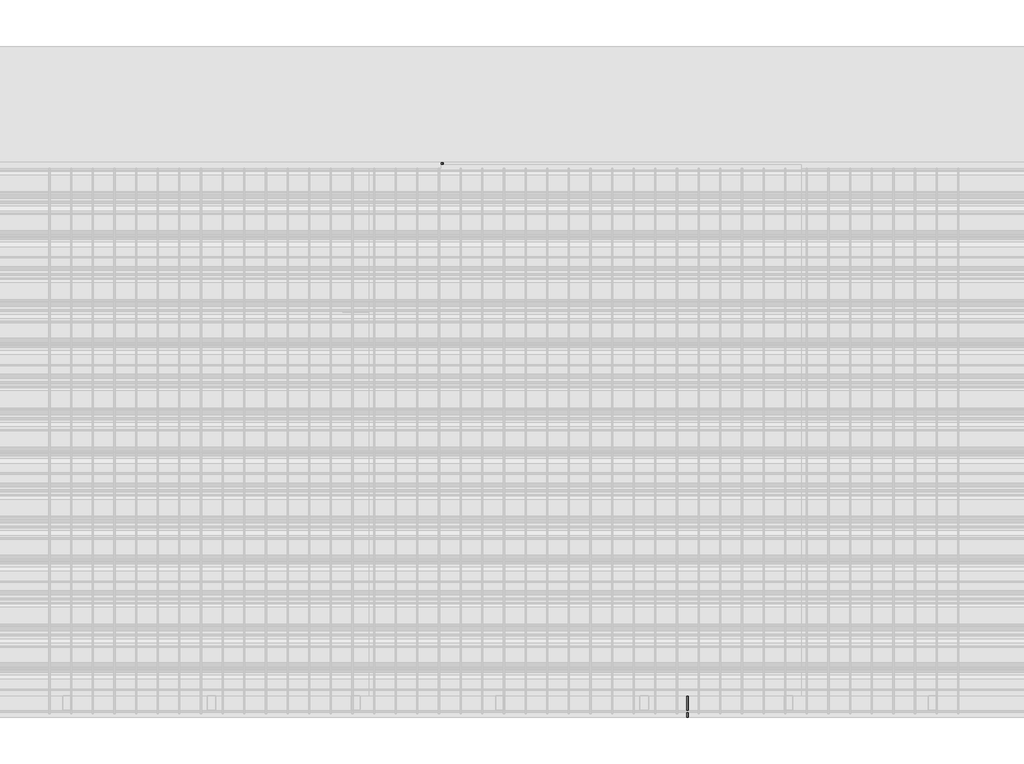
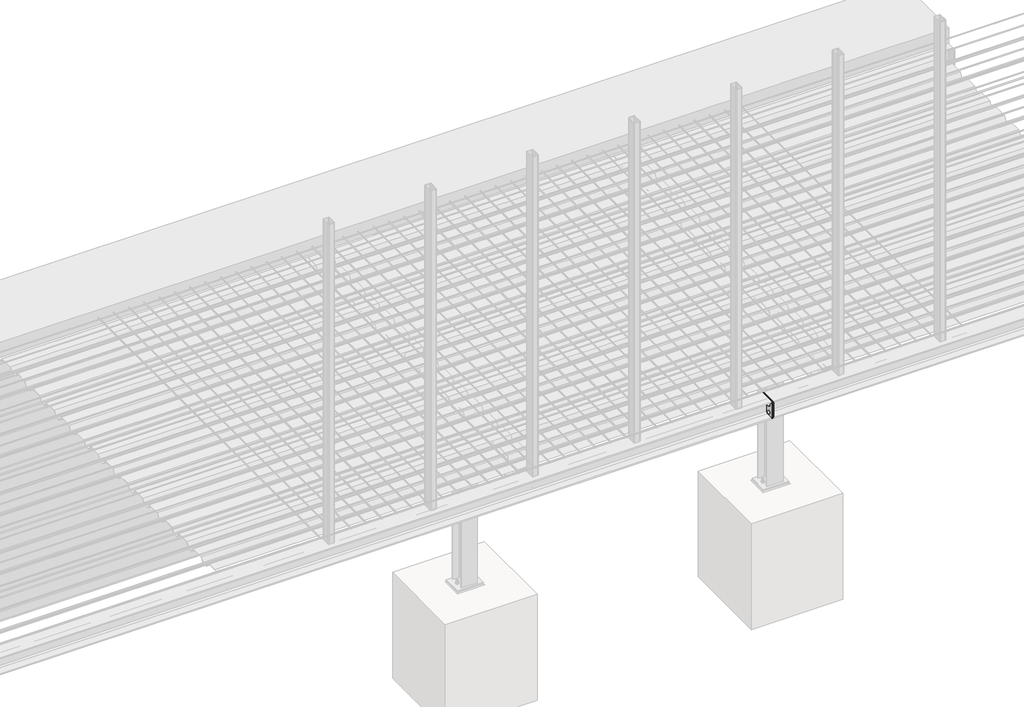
# One storey, part 11 of 36: 11 proxies.
"""IFC4 building model written with IfcOpenShell, lengths in millimetres."""

from ifc_helpers import new_model, si_unit, point, frame, frame_2d, origin, place, context, project, spatial, polyline, circle_curve, trimmed, segment, composite_curve, outline, extrude, element, save

model = new_model("IFC4")

# Units and contexts
model_context = context("Model", 3, world=origin())
ifc_project = project(units=[si_unit("LENGTHUNIT", "METRE", prefix="MILLI")], contexts=[model_context])

# Site, building, storey
site = spatial("IfcSite", under=ifc_project)
building = spatial("IfcBuilding", under=site)
storey = spatial("IfcBuildingStorey", under=building, Name="Základy", Elevation=-1200.0)

# Proxies
placement = place(None, origin())
element("IfcBuildingElementProxy", 1, Name="PLECH", ObjectType="PLECH", at=placement, inside=storey, context=model_context, shape_type="SweptSolid", body=[
    extrude(outline(polyline([(5960.0, 3775.0), (6140.0, 3775.0), (6140.0, 3767.0), (5960.0, 3767.0), (5960.0, 3775.0)])), frame((0.0, 0.0, -316.0), z_axis=(0.0, 0.0, 1.0), x_axis=(1.0, 0.0, 0.0)), (0.0, 0.0, 1.0), 132.0),
])
element("IfcBuildingElementProxy", 2, Name="PLECH", ObjectType="PLECH", at=placement, inside=storey, context=model_context, shape_type="SweptSolid", body=[
    extrude(outline(composite_curve([segment(polyline([(3785.0, -170.5), (3834.5, -170.5)]), True, "CONTINUOUS"), segment(trimmed(circle_curve(frame_2d((3854.5, -170.5)), 20.0), [point((3834.5, -170.5))], [point((3854.5, -190.5))], True, "CARTESIAN"), True, "CONTINUOUS"), segment(polyline([(3854.5, -190.5), (3854.5, -309.5)]), True, "CONTINUOUS"), segment(trimmed(circle_curve(frame_2d((3854.5, -329.5)), 20.0), [point((3854.5, -309.5))], [point((3834.5, -329.5))], True, "CARTESIAN"), True, "CONTINUOUS"), segment(polyline([(3834.5, -329.5), (3785.0, -329.5), (3785.0, -170.5)]), True, "CONTINUOUS")], self_intersect=False)), frame((6046.0, 0.0, 0.0), z_axis=(1.0, 0.0, 0.0), x_axis=(0.0, 1.0, 0.0)), (0.0, 0.0, 1.0), 8.0),
])
element("IfcBuildingElementProxy", 3, Name="PLECH", ObjectType="PLECH", at=placement, inside=storey, context=model_context, shape_type="SweptSolid", body=[
    extrude(outline(polyline([(5960.0, 3785.0), (6140.0, 3785.0), (6140.0, 3775.0), (5960.0, 3775.0), (5960.0, 3785.0)])), frame((0.0, 0.0, -332.0), z_axis=(0.0, 0.0, 1.0), x_axis=(1.0, 0.0, 0.0)), (0.0, 0.0, 1.0), 164.0),
])
element("IfcBuildingElementProxy", 4, Name="PLECH", ObjectType="PLECH", at=placement, inside=storey, context=model_context, shape_type="SweptSolid", body=[
    extrude(outline(polyline([(6650.0, 3855.0), (6650.0, 3785.0), (6640.0, 3785.0), (6640.0, 3855.0), (6650.0, 3855.0)])), frame((0.0, 0.0, -329.5), z_axis=(0.0, 0.0, 1.0), x_axis=(1.0, 0.0, 0.0)), (0.0, 0.0, 1.0), 159.0),
])
element("IfcBuildingElementProxy", 5, Name="PLECH", ObjectType="PLECH", at=placement, inside=storey, context=model_context, shape_type="SweptSolid", body=[
    extrude(outline(polyline([(8350.0, 190.0), (8350.0, 10.0), (8340.0, 10.0), (8340.0, 190.0), (8350.0, 190.0)])), frame((0.0, 0.0, -332.0), z_axis=(0.0, 0.0, 1.0), x_axis=(1.0, 0.0, 0.0)), (0.0, 0.0, 1.0), 164.0),
])
element("IfcBuildingElementProxy", 6, Name="PLECH", ObjectType="PLECH", at=placement, inside=storey, context=model_context, shape_type="SweptSolid", body=[
    extrude(outline(polyline([(6660.0, 3855.0), (6660.0, 3785.0), (6650.0, 3785.0), (6650.0, 3855.0), (6660.0, 3855.0)])), frame((0.0, 0.0, -329.5), z_axis=(0.0, 0.0, 1.0), x_axis=(1.0, 0.0, 0.0)), (0.0, 0.0, 1.0), 159.0),
])
element("IfcBuildingElementProxy", 7, Name="PLECH", ObjectType="PLECH", at=placement, inside=storey, context=model_context, shape_type="SweptSolid", body=[
    extrude(outline(polyline([(8360.0, 190.0), (8360.0, 10.0), (8350.0, 10.0), (8350.0, 190.0), (8360.0, 190.0)])), frame((0.0, 0.0, -332.0), z_axis=(0.0, 0.0, 1.0), x_axis=(1.0, 0.0, 0.0)), (0.0, 0.0, 1.0), 164.0),
])
element("IfcBuildingElementProxy", 8, Name="Bolt assembly", ObjectType="Bolt assembly", at=placement, inside=storey, context=model_context, shape_type="SweptSolid", body=[
    extrude(outline(composite_curve([segment(trimmed(circle_curve(frame_2d((6000.0, 1220.0)), 6.5), [point((6006.5, 1220.0))], [point((5993.5, 1220.0))], False, "CARTESIAN"), True, "CONTINUOUS"), segment(trimmed(circle_curve(frame_2d((6000.0, 1220.0)), 6.5), [point((5993.5, 1220.0))], [point((6006.5, 1220.0))], False, "CARTESIAN"), True, "CONTINUOUS")], self_intersect=False)), frame((0.0, 0.0, -350.0), z_axis=(0.0, 0.0, 1.0), x_axis=(1.0, 0.0, 0.0)), (0.0, 0.0, 1.0), 10.1),
    extrude(outline(polyline([(6010.3923048, 1220.0), (6005.1961524, 1211.0), (5994.8038476, 1211.0), (5989.6076952, 1220.0), (5994.8038476, 1229.0), (6005.1961524, 1229.0), (6010.3923048, 1220.0)])), frame((0.0, 0.0, -323.5), z_axis=(0.0, 0.0, 1.0), x_axis=(1.0, 0.0, 0.0)), (0.0, 0.0, 1.0), 7.5),
    extrude(outline(composite_curve([segment(trimmed(circle_curve(frame_2d((6000.0, 1220.0)), 6.0), [point((6006.0, 1220.0))], [point((5994.0, 1220.0))], False, "CARTESIAN"), True, "CONTINUOUS"), segment(trimmed(circle_curve(frame_2d((6000.0, 1220.0)), 6.0), [point((5994.0, 1220.0))], [point((6006.0, 1220.0))], False, "CARTESIAN"), True, "CONTINUOUS")], self_intersect=False)), frame((0.0, 0.0, -368.5), z_axis=(0.0, 0.0, 1.0), x_axis=(1.0, 0.0, 0.0)), (0.0, 0.0, 1.0), 45.0),
    extrude(outline(composite_curve([segment(trimmed(circle_curve(frame_2d((6000.0, 1220.0)), 12.0), [point((6012.0, 1220.0))], [point((5988.0, 1220.0))], False, "CARTESIAN"), True, "CONTINUOUS"), segment(trimmed(circle_curve(frame_2d((6000.0, 1220.0)), 12.0), [point((5988.0, 1220.0))], [point((6012.0, 1220.0))], False, "CARTESIAN"), True, "CONTINUOUS")], self_intersect=False)), frame((0.0, 0.0, -326.0), z_axis=(0.0, 0.0, 1.0), x_axis=(1.0, 0.0, 0.0)), (0.0, 0.0, 1.0), 2.5),
    extrude(outline(composite_curve([segment(trimmed(circle_curve(frame_2d((6000.0, 1220.0)), 12.0), [point((6012.0, 1220.0))], [point((5988.0, 1220.0))], False, "CARTESIAN"), True, "CONTINUOUS"), segment(trimmed(circle_curve(frame_2d((6000.0, 1220.0)), 12.0), [point((5988.0, 1220.0))], [point((6012.0, 1220.0))], False, "CARTESIAN"), True, "CONTINUOUS")], self_intersect=False)), frame((0.0, 0.0, -352.5), z_axis=(0.0, 0.0, 1.0), x_axis=(1.0, 0.0, 0.0)), (0.0, 0.0, 1.0), 2.5),
    extrude(outline(polyline([(6010.9696551, 1220.0), (6005.4848276, 1210.5), (5994.5151724, 1210.5), (5989.0303449, 1220.0), (5994.5151724, 1229.5), (6005.4848276, 1229.5), (6010.9696551, 1220.0)])), frame((0.0, 0.0, -362.5), z_axis=(0.0, 0.0, 1.0), x_axis=(1.0, 0.0, 0.0)), (0.0, 0.0, 1.0), 10.0),
    extrude(outline(composite_curve([segment(trimmed(circle_curve(frame_2d((6000.0, 1220.0)), 6.5), [point((6006.5, 1220.0))], [point((5993.5, 1220.0))], False, "CARTESIAN"), True, "CONTINUOUS"), segment(trimmed(circle_curve(frame_2d((6000.0, 1220.0)), 6.5), [point((5993.5, 1220.0))], [point((6006.5, 1220.0))], False, "CARTESIAN"), True, "CONTINUOUS")], self_intersect=False)), frame((0.0, 0.0, -340.1), z_axis=(0.0, 0.0, 1.0), x_axis=(1.0, 0.0, 0.0)), (0.0, 0.0, 1.0), 14.0),
    extrude(outline(composite_curve([segment(trimmed(circle_curve(frame_2d((6100.0, 1220.0)), 6.5), [point((6106.5, 1220.0))], [point((6093.5, 1220.0))], False, "CARTESIAN"), True, "CONTINUOUS"), segment(trimmed(circle_curve(frame_2d((6100.0, 1220.0)), 6.5), [point((6093.5, 1220.0))], [point((6106.5, 1220.0))], False, "CARTESIAN"), True, "CONTINUOUS")], self_intersect=False)), frame((0.0, 0.0, -350.0), z_axis=(0.0, 0.0, 1.0), x_axis=(1.0, 0.0, 0.0)), (0.0, 0.0, 1.0), 10.1),
    extrude(outline(polyline([(6110.3923048, 1220.0), (6105.1961524, 1211.0), (6094.8038476, 1211.0), (6089.6076952, 1220.0), (6094.8038476, 1229.0), (6105.1961524, 1229.0), (6110.3923048, 1220.0)])), frame((0.0, 0.0, -323.5), z_axis=(0.0, 0.0, 1.0), x_axis=(1.0, 0.0, 0.0)), (0.0, 0.0, 1.0), 7.5),
    extrude(outline(composite_curve([segment(trimmed(circle_curve(frame_2d((6100.0, 1220.0)), 6.0), [point((6106.0, 1220.0))], [point((6094.0, 1220.0))], False, "CARTESIAN"), True, "CONTINUOUS"), segment(trimmed(circle_curve(frame_2d((6100.0, 1220.0)), 6.0), [point((6094.0, 1220.0))], [point((6106.0, 1220.0))], False, "CARTESIAN"), True, "CONTINUOUS")], self_intersect=False)), frame((0.0, 0.0, -368.5), z_axis=(0.0, 0.0, 1.0), x_axis=(1.0, 0.0, 0.0)), (0.0, 0.0, 1.0), 45.0),
    extrude(outline(composite_curve([segment(trimmed(circle_curve(frame_2d((6100.0, 1220.0)), 12.0), [point((6112.0, 1220.0))], [point((6088.0, 1220.0))], False, "CARTESIAN"), True, "CONTINUOUS"), segment(trimmed(circle_curve(frame_2d((6100.0, 1220.0)), 12.0), [point((6088.0, 1220.0))], [point((6112.0, 1220.0))], False, "CARTESIAN"), True, "CONTINUOUS")], self_intersect=False)), frame((0.0, 0.0, -326.0), z_axis=(0.0, 0.0, 1.0), x_axis=(1.0, 0.0, 0.0)), (0.0, 0.0, 1.0), 2.5),
    extrude(outline(composite_curve([segment(trimmed(circle_curve(frame_2d((6100.0, 1220.0)), 12.0), [point((6112.0, 1220.0))], [point((6088.0, 1220.0))], False, "CARTESIAN"), True, "CONTINUOUS"), segment(trimmed(circle_curve(frame_2d((6100.0, 1220.0)), 12.0), [point((6088.0, 1220.0))], [point((6112.0, 1220.0))], False, "CARTESIAN"), True, "CONTINUOUS")], self_intersect=False)), frame((0.0, 0.0, -352.5), z_axis=(0.0, 0.0, 1.0), x_axis=(1.0, 0.0, 0.0)), (0.0, 0.0, 1.0), 2.5),
    extrude(outline(polyline([(6110.9696551, 1220.0), (6105.4848276, 1210.5), (6094.5151724, 1210.5), (6089.0303449, 1220.0), (6094.5151724, 1229.5), (6105.4848276, 1229.5), (6110.9696551, 1220.0)])), frame((0.0, 0.0, -362.5), z_axis=(0.0, 0.0, 1.0), x_axis=(1.0, 0.0, 0.0)), (0.0, 0.0, 1.0), 10.0),
    extrude(outline(composite_curve([segment(trimmed(circle_curve(frame_2d((6100.0, 1220.0)), 6.5), [point((6106.5, 1220.0))], [point((6093.5, 1220.0))], False, "CARTESIAN"), True, "CONTINUOUS"), segment(trimmed(circle_curve(frame_2d((6100.0, 1220.0)), 6.5), [point((6093.5, 1220.0))], [point((6106.5, 1220.0))], False, "CARTESIAN"), True, "CONTINUOUS")], self_intersect=False)), frame((0.0, 0.0, -340.1), z_axis=(0.0, 0.0, 1.0), x_axis=(1.0, 0.0, 0.0)), (0.0, 0.0, 1.0), 14.0),
    extrude(outline(composite_curve([segment(trimmed(circle_curve(frame_2d((6000.0, 1300.0)), 6.5), [point((6006.5, 1300.0))], [point((5993.5, 1300.0))], False, "CARTESIAN"), True, "CONTINUOUS"), segment(trimmed(circle_curve(frame_2d((6000.0, 1300.0)), 6.5), [point((5993.5, 1300.0))], [point((6006.5, 1300.0))], False, "CARTESIAN"), True, "CONTINUOUS")], self_intersect=False)), frame((0.0, 0.0, -350.0), z_axis=(0.0, 0.0, 1.0), x_axis=(1.0, 0.0, 0.0)), (0.0, 0.0, 1.0), 10.1),
    extrude(outline(polyline([(6010.3923048, 1300.0), (6005.1961524, 1291.0), (5994.8038476, 1291.0), (5989.6076952, 1300.0), (5994.8038476, 1309.0), (6005.1961524, 1309.0), (6010.3923048, 1300.0)])), frame((0.0, 0.0, -323.5), z_axis=(0.0, 0.0, 1.0), x_axis=(1.0, 0.0, 0.0)), (0.0, 0.0, 1.0), 7.5),
    extrude(outline(composite_curve([segment(trimmed(circle_curve(frame_2d((6000.0, 1300.0)), 6.0), [point((6006.0, 1300.0))], [point((5994.0, 1300.0))], False, "CARTESIAN"), True, "CONTINUOUS"), segment(trimmed(circle_curve(frame_2d((6000.0, 1300.0)), 6.0), [point((5994.0, 1300.0))], [point((6006.0, 1300.0))], False, "CARTESIAN"), True, "CONTINUOUS")], self_intersect=False)), frame((0.0, 0.0, -368.5), z_axis=(0.0, 0.0, 1.0), x_axis=(1.0, 0.0, 0.0)), (0.0, 0.0, 1.0), 45.0),
    extrude(outline(composite_curve([segment(trimmed(circle_curve(frame_2d((6000.0, 1300.0)), 12.0), [point((6012.0, 1300.0))], [point((5988.0, 1300.0))], False, "CARTESIAN"), True, "CONTINUOUS"), segment(trimmed(circle_curve(frame_2d((6000.0, 1300.0)), 12.0), [point((5988.0, 1300.0))], [point((6012.0, 1300.0))], False, "CARTESIAN"), True, "CONTINUOUS")], self_intersect=False)), frame((0.0, 0.0, -326.0), z_axis=(0.0, 0.0, 1.0), x_axis=(1.0, 0.0, 0.0)), (0.0, 0.0, 1.0), 2.5),
    extrude(outline(composite_curve([segment(trimmed(circle_curve(frame_2d((6000.0, 1300.0)), 12.0), [point((6012.0, 1300.0))], [point((5988.0, 1300.0))], False, "CARTESIAN"), True, "CONTINUOUS"), segment(trimmed(circle_curve(frame_2d((6000.0, 1300.0)), 12.0), [point((5988.0, 1300.0))], [point((6012.0, 1300.0))], False, "CARTESIAN"), True, "CONTINUOUS")], self_intersect=False)), frame((0.0, 0.0, -352.5), z_axis=(0.0, 0.0, 1.0), x_axis=(1.0, 0.0, 0.0)), (0.0, 0.0, 1.0), 2.5),
    extrude(outline(polyline([(6010.9696551, 1300.0), (6005.4848276, 1290.5), (5994.5151724, 1290.5), (5989.0303449, 1300.0), (5994.5151724, 1309.5), (6005.4848276, 1309.5), (6010.9696551, 1300.0)])), frame((0.0, 0.0, -362.5), z_axis=(0.0, 0.0, 1.0), x_axis=(1.0, 0.0, 0.0)), (0.0, 0.0, 1.0), 10.0),
    extrude(outline(composite_curve([segment(trimmed(circle_curve(frame_2d((6000.0, 1300.0)), 6.5), [point((6006.5, 1300.0))], [point((5993.5, 1300.0))], False, "CARTESIAN"), True, "CONTINUOUS"), segment(trimmed(circle_curve(frame_2d((6000.0, 1300.0)), 6.5), [point((5993.5, 1300.0))], [point((6006.5, 1300.0))], False, "CARTESIAN"), True, "CONTINUOUS")], self_intersect=False)), frame((0.0, 0.0, -340.1), z_axis=(0.0, 0.0, 1.0), x_axis=(1.0, 0.0, 0.0)), (0.0, 0.0, 1.0), 14.0),
    extrude(outline(composite_curve([segment(trimmed(circle_curve(frame_2d((6100.0, 1300.0)), 6.5), [point((6106.5, 1300.0))], [point((6093.5, 1300.0))], False, "CARTESIAN"), True, "CONTINUOUS"), segment(trimmed(circle_curve(frame_2d((6100.0, 1300.0)), 6.5), [point((6093.5, 1300.0))], [point((6106.5, 1300.0))], False, "CARTESIAN"), True, "CONTINUOUS")], self_intersect=False)), frame((0.0, 0.0, -350.0), z_axis=(0.0, 0.0, 1.0), x_axis=(1.0, 0.0, 0.0)), (0.0, 0.0, 1.0), 10.1),
    extrude(outline(polyline([(6110.3923048, 1300.0), (6105.1961524, 1291.0), (6094.8038476, 1291.0), (6089.6076952, 1300.0), (6094.8038476, 1309.0), (6105.1961524, 1309.0), (6110.3923048, 1300.0)])), frame((0.0, 0.0, -323.5), z_axis=(0.0, 0.0, 1.0), x_axis=(1.0, 0.0, 0.0)), (0.0, 0.0, 1.0), 7.5),
    extrude(outline(composite_curve([segment(trimmed(circle_curve(frame_2d((6100.0, 1300.0)), 6.0), [point((6106.0, 1300.0))], [point((6094.0, 1300.0))], False, "CARTESIAN"), True, "CONTINUOUS"), segment(trimmed(circle_curve(frame_2d((6100.0, 1300.0)), 6.0), [point((6094.0, 1300.0))], [point((6106.0, 1300.0))], False, "CARTESIAN"), True, "CONTINUOUS")], self_intersect=False)), frame((0.0, 0.0, -368.5), z_axis=(0.0, 0.0, 1.0), x_axis=(1.0, 0.0, 0.0)), (0.0, 0.0, 1.0), 45.0),
    extrude(outline(composite_curve([segment(trimmed(circle_curve(frame_2d((6100.0, 1300.0)), 12.0), [point((6112.0, 1300.0))], [point((6088.0, 1300.0))], False, "CARTESIAN"), True, "CONTINUOUS"), segment(trimmed(circle_curve(frame_2d((6100.0, 1300.0)), 12.0), [point((6088.0, 1300.0))], [point((6112.0, 1300.0))], False, "CARTESIAN"), True, "CONTINUOUS")], self_intersect=False)), frame((0.0, 0.0, -326.0), z_axis=(0.0, 0.0, 1.0), x_axis=(1.0, 0.0, 0.0)), (0.0, 0.0, 1.0), 2.5),
    extrude(outline(composite_curve([segment(trimmed(circle_curve(frame_2d((6100.0, 1300.0)), 12.0), [point((6112.0, 1300.0))], [point((6088.0, 1300.0))], False, "CARTESIAN"), True, "CONTINUOUS"), segment(trimmed(circle_curve(frame_2d((6100.0, 1300.0)), 12.0), [point((6088.0, 1300.0))], [point((6112.0, 1300.0))], False, "CARTESIAN"), True, "CONTINUOUS")], self_intersect=False)), frame((0.0, 0.0, -352.5), z_axis=(0.0, 0.0, 1.0), x_axis=(1.0, 0.0, 0.0)), (0.0, 0.0, 1.0), 2.5),
    extrude(outline(polyline([(6110.9696551, 1300.0), (6105.4848276, 1290.5), (6094.5151724, 1290.5), (6089.0303449, 1300.0), (6094.5151724, 1309.5), (6105.4848276, 1309.5), (6110.9696551, 1300.0)])), frame((0.0, 0.0, -362.5), z_axis=(0.0, 0.0, 1.0), x_axis=(1.0, 0.0, 0.0)), (0.0, 0.0, 1.0), 10.0),
    extrude(outline(composite_curve([segment(trimmed(circle_curve(frame_2d((6100.0, 1300.0)), 6.5), [point((6106.5, 1300.0))], [point((6093.5, 1300.0))], False, "CARTESIAN"), True, "CONTINUOUS"), segment(trimmed(circle_curve(frame_2d((6100.0, 1300.0)), 6.5), [point((6093.5, 1300.0))], [point((6106.5, 1300.0))], False, "CARTESIAN"), True, "CONTINUOUS")], self_intersect=False)), frame((0.0, 0.0, -340.1), z_axis=(0.0, 0.0, 1.0), x_axis=(1.0, 0.0, 0.0)), (0.0, 0.0, 1.0), 14.0),
])
element("IfcBuildingElementProxy", 9, Name="Bolt assembly", ObjectType="Bolt assembly", at=placement, inside=storey, context=model_context, shape_type="SweptSolid", body=[
    extrude(outline(composite_curve([segment(trimmed(circle_curve(frame_2d((-220.0, 6005.0)), 9.0), [point((-220.0, 6014.0))], [point((-220.0, 5996.0))], False, "CARTESIAN"), True, "CONTINUOUS"), segment(trimmed(circle_curve(frame_2d((-220.0, 6005.0)), 9.0), [point((-220.0, 5996.0))], [point((-220.0, 6014.0))], False, "CARTESIAN"), True, "CONTINUOUS")], self_intersect=False)), frame((0.0, 3774.9, 0.0), z_axis=(0.0, 1.0, 0.0), x_axis=(0.0, 0.0, 1.0)), (0.0, 0.0, 1.0), 10.0),
    extrude(outline(polyline([(-220.0, 6018.8564065), (-208.0, 6011.9282032), (-208.0, 5998.0717968), (-220.0, 5991.1435935), (-232.0, 5998.0717968), (-232.0, 6011.9282032), (-220.0, 6018.8564065)])), frame((0.0, 3788.0, 0.0), z_axis=(0.0, 1.0, 0.0), x_axis=(0.0, 0.0, 1.0)), (0.0, 0.0, 1.0), 10.0),
    extrude(outline(composite_curve([segment(trimmed(circle_curve(frame_2d((-220.0, 6005.0)), 8.0), [point((-220.0, 6013.0))], [point((-220.0, 5997.0))], False, "CARTESIAN"), True, "CONTINUOUS"), segment(trimmed(circle_curve(frame_2d((-220.0, 6005.0)), 8.0), [point((-220.0, 5997.0))], [point((-220.0, 6013.0))], False, "CARTESIAN"), True, "CONTINUOUS")], self_intersect=False)), frame((0.0, 3738.0, 0.0), z_axis=(0.0, 1.0, 0.0), x_axis=(0.0, 0.0, 1.0)), (0.0, 0.0, 1.0), 50.0),
    extrude(outline(composite_curve([segment(trimmed(circle_curve(frame_2d((-220.0, 6005.0)), 15.0), [point((-220.0, 6020.0))], [point((-220.0, 5990.0))], False, "CARTESIAN"), True, "CONTINUOUS"), segment(trimmed(circle_curve(frame_2d((-220.0, 6005.0)), 15.0), [point((-220.0, 5990.0))], [point((-220.0, 6020.0))], False, "CARTESIAN"), True, "CONTINUOUS")], self_intersect=False)), frame((0.0, 3785.0, 0.0), z_axis=(0.0, 1.0, 0.0), x_axis=(0.0, 0.0, 1.0)), (0.0, 0.0, 1.0), 3.0),
    extrude(outline(composite_curve([segment(trimmed(circle_curve(frame_2d((-220.0, 6005.0)), 15.0), [point((-220.0, 6020.0))], [point((-220.0, 5990.0))], False, "CARTESIAN"), True, "CONTINUOUS"), segment(trimmed(circle_curve(frame_2d((-220.0, 6005.0)), 15.0), [point((-220.0, 5990.0))], [point((-220.0, 6020.0))], False, "CARTESIAN"), True, "CONTINUOUS")], self_intersect=False)), frame((0.0, 3764.0, 0.0), z_axis=(0.0, 1.0, 0.0), x_axis=(0.0, 0.0, 1.0)), (0.0, 0.0, 1.0), 3.0),
    extrude(outline(polyline([(-220.0, 6020.4441197), (-206.625, 6012.7220599), (-206.625, 5997.2779401), (-220.0, 5989.5558803), (-233.375, 5997.2779401), (-233.375, 6012.7220599), (-220.0, 6020.4441197)])), frame((0.0, 3751.0, 0.0), z_axis=(0.0, 1.0, 0.0), x_axis=(0.0, 0.0, 1.0)), (0.0, 0.0, 1.0), 13.0),
    extrude(outline(composite_curve([segment(trimmed(circle_curve(frame_2d((-220.0, 6005.0)), 9.0), [point((-220.0, 6014.0))], [point((-220.0, 5996.0))], False, "CARTESIAN"), True, "CONTINUOUS"), segment(trimmed(circle_curve(frame_2d((-220.0, 6005.0)), 9.0), [point((-220.0, 5996.0))], [point((-220.0, 6014.0))], False, "CARTESIAN"), True, "CONTINUOUS")], self_intersect=False)), frame((0.0, 3767.0, 0.0), z_axis=(0.0, 1.0, 0.0), x_axis=(0.0, 0.0, 1.0)), (0.0, 0.0, 1.0), 8.1),
    extrude(outline(composite_curve([segment(trimmed(circle_curve(frame_2d((-220.0, 6095.0)), 9.0), [point((-220.0, 6104.0))], [point((-220.0, 6086.0))], False, "CARTESIAN"), True, "CONTINUOUS"), segment(trimmed(circle_curve(frame_2d((-220.0, 6095.0)), 9.0), [point((-220.0, 6086.0))], [point((-220.0, 6104.0))], False, "CARTESIAN"), True, "CONTINUOUS")], self_intersect=False)), frame((0.0, 3774.9, 0.0), z_axis=(0.0, 1.0, 0.0), x_axis=(0.0, 0.0, 1.0)), (0.0, 0.0, 1.0), 10.0),
    extrude(outline(polyline([(-220.0, 6108.8564065), (-208.0, 6101.9282032), (-208.0, 6088.0717968), (-220.0, 6081.1435935), (-232.0, 6088.0717968), (-232.0, 6101.9282032), (-220.0, 6108.8564065)])), frame((0.0, 3788.0, 0.0), z_axis=(0.0, 1.0, 0.0), x_axis=(0.0, 0.0, 1.0)), (0.0, 0.0, 1.0), 10.0),
    extrude(outline(composite_curve([segment(trimmed(circle_curve(frame_2d((-220.0, 6095.0)), 8.0), [point((-220.0, 6103.0))], [point((-220.0, 6087.0))], False, "CARTESIAN"), True, "CONTINUOUS"), segment(trimmed(circle_curve(frame_2d((-220.0, 6095.0)), 8.0), [point((-220.0, 6087.0))], [point((-220.0, 6103.0))], False, "CARTESIAN"), True, "CONTINUOUS")], self_intersect=False)), frame((0.0, 3738.0, 0.0), z_axis=(0.0, 1.0, 0.0), x_axis=(0.0, 0.0, 1.0)), (0.0, 0.0, 1.0), 50.0),
    extrude(outline(composite_curve([segment(trimmed(circle_curve(frame_2d((-220.0, 6095.0)), 15.0), [point((-220.0, 6110.0))], [point((-220.0, 6080.0))], False, "CARTESIAN"), True, "CONTINUOUS"), segment(trimmed(circle_curve(frame_2d((-220.0, 6095.0)), 15.0), [point((-220.0, 6080.0))], [point((-220.0, 6110.0))], False, "CARTESIAN"), True, "CONTINUOUS")], self_intersect=False)), frame((0.0, 3785.0, 0.0), z_axis=(0.0, 1.0, 0.0), x_axis=(0.0, 0.0, 1.0)), (0.0, 0.0, 1.0), 3.0),
    extrude(outline(composite_curve([segment(trimmed(circle_curve(frame_2d((-220.0, 6095.0)), 15.0), [point((-220.0, 6110.0))], [point((-220.0, 6080.0))], False, "CARTESIAN"), True, "CONTINUOUS"), segment(trimmed(circle_curve(frame_2d((-220.0, 6095.0)), 15.0), [point((-220.0, 6080.0))], [point((-220.0, 6110.0))], False, "CARTESIAN"), True, "CONTINUOUS")], self_intersect=False)), frame((0.0, 3764.0, 0.0), z_axis=(0.0, 1.0, 0.0), x_axis=(0.0, 0.0, 1.0)), (0.0, 0.0, 1.0), 3.0),
    extrude(outline(polyline([(-220.0, 6110.4441197), (-206.625, 6102.7220599), (-206.625, 6087.2779401), (-220.0, 6079.5558803), (-233.375, 6087.2779401), (-233.375, 6102.7220599), (-220.0, 6110.4441197)])), frame((0.0, 3751.0, 0.0), z_axis=(0.0, 1.0, 0.0), x_axis=(0.0, 0.0, 1.0)), (0.0, 0.0, 1.0), 13.0),
    extrude(outline(composite_curve([segment(trimmed(circle_curve(frame_2d((-220.0, 6095.0)), 9.0), [point((-220.0, 6104.0))], [point((-220.0, 6086.0))], False, "CARTESIAN"), True, "CONTINUOUS"), segment(trimmed(circle_curve(frame_2d((-220.0, 6095.0)), 9.0), [point((-220.0, 6086.0))], [point((-220.0, 6104.0))], False, "CARTESIAN"), True, "CONTINUOUS")], self_intersect=False)), frame((0.0, 3767.0, 0.0), z_axis=(0.0, 1.0, 0.0), x_axis=(0.0, 0.0, 1.0)), (0.0, 0.0, 1.0), 8.1),
    extrude(outline(composite_curve([segment(trimmed(circle_curve(frame_2d((-280.0, 6005.0)), 9.0), [point((-280.0, 6014.0))], [point((-280.0, 5996.0))], False, "CARTESIAN"), True, "CONTINUOUS"), segment(trimmed(circle_curve(frame_2d((-280.0, 6005.0)), 9.0), [point((-280.0, 5996.0))], [point((-280.0, 6014.0))], False, "CARTESIAN"), True, "CONTINUOUS")], self_intersect=False)), frame((0.0, 3774.9, 0.0), z_axis=(0.0, 1.0, 0.0), x_axis=(0.0, 0.0, 1.0)), (0.0, 0.0, 1.0), 10.0),
    extrude(outline(polyline([(-280.0, 6018.8564065), (-268.0, 6011.9282032), (-268.0, 5998.0717968), (-280.0, 5991.1435935), (-292.0, 5998.0717968), (-292.0, 6011.9282032), (-280.0, 6018.8564065)])), frame((0.0, 3788.0, 0.0), z_axis=(0.0, 1.0, 0.0), x_axis=(0.0, 0.0, 1.0)), (0.0, 0.0, 1.0), 10.0),
    extrude(outline(composite_curve([segment(trimmed(circle_curve(frame_2d((-280.0, 6005.0)), 8.0), [point((-280.0, 6013.0))], [point((-280.0, 5997.0))], False, "CARTESIAN"), True, "CONTINUOUS"), segment(trimmed(circle_curve(frame_2d((-280.0, 6005.0)), 8.0), [point((-280.0, 5997.0))], [point((-280.0, 6013.0))], False, "CARTESIAN"), True, "CONTINUOUS")], self_intersect=False)), frame((0.0, 3738.0, 0.0), z_axis=(0.0, 1.0, 0.0), x_axis=(0.0, 0.0, 1.0)), (0.0, 0.0, 1.0), 50.0),
    extrude(outline(composite_curve([segment(trimmed(circle_curve(frame_2d((-280.0, 6005.0)), 15.0), [point((-280.0, 6020.0))], [point((-280.0, 5990.0))], False, "CARTESIAN"), True, "CONTINUOUS"), segment(trimmed(circle_curve(frame_2d((-280.0, 6005.0)), 15.0), [point((-280.0, 5990.0))], [point((-280.0, 6020.0))], False, "CARTESIAN"), True, "CONTINUOUS")], self_intersect=False)), frame((0.0, 3785.0, 0.0), z_axis=(0.0, 1.0, 0.0), x_axis=(0.0, 0.0, 1.0)), (0.0, 0.0, 1.0), 3.0),
    extrude(outline(composite_curve([segment(trimmed(circle_curve(frame_2d((-280.0, 6005.0)), 15.0), [point((-280.0, 6020.0))], [point((-280.0, 5990.0))], False, "CARTESIAN"), True, "CONTINUOUS"), segment(trimmed(circle_curve(frame_2d((-280.0, 6005.0)), 15.0), [point((-280.0, 5990.0))], [point((-280.0, 6020.0))], False, "CARTESIAN"), True, "CONTINUOUS")], self_intersect=False)), frame((0.0, 3764.0, 0.0), z_axis=(0.0, 1.0, 0.0), x_axis=(0.0, 0.0, 1.0)), (0.0, 0.0, 1.0), 3.0),
    extrude(outline(polyline([(-280.0, 6020.4441197), (-266.625, 6012.7220599), (-266.625, 5997.2779401), (-280.0, 5989.5558803), (-293.375, 5997.2779401), (-293.375, 6012.7220599), (-280.0, 6020.4441197)])), frame((0.0, 3751.0, 0.0), z_axis=(0.0, 1.0, 0.0), x_axis=(0.0, 0.0, 1.0)), (0.0, 0.0, 1.0), 13.0),
    extrude(outline(composite_curve([segment(trimmed(circle_curve(frame_2d((-280.0, 6005.0)), 9.0), [point((-280.0, 6014.0))], [point((-280.0, 5996.0))], False, "CARTESIAN"), True, "CONTINUOUS"), segment(trimmed(circle_curve(frame_2d((-280.0, 6005.0)), 9.0), [point((-280.0, 5996.0))], [point((-280.0, 6014.0))], False, "CARTESIAN"), True, "CONTINUOUS")], self_intersect=False)), frame((0.0, 3767.0, 0.0), z_axis=(0.0, 1.0, 0.0), x_axis=(0.0, 0.0, 1.0)), (0.0, 0.0, 1.0), 8.1),
    extrude(outline(composite_curve([segment(trimmed(circle_curve(frame_2d((-280.0, 6095.0)), 9.0), [point((-280.0, 6104.0))], [point((-280.0, 6086.0))], False, "CARTESIAN"), True, "CONTINUOUS"), segment(trimmed(circle_curve(frame_2d((-280.0, 6095.0)), 9.0), [point((-280.0, 6086.0))], [point((-280.0, 6104.0))], False, "CARTESIAN"), True, "CONTINUOUS")], self_intersect=False)), frame((0.0, 3774.9, 0.0), z_axis=(0.0, 1.0, 0.0), x_axis=(0.0, 0.0, 1.0)), (0.0, 0.0, 1.0), 10.0),
    extrude(outline(polyline([(-280.0, 6108.8564065), (-268.0, 6101.9282032), (-268.0, 6088.0717968), (-280.0, 6081.1435935), (-292.0, 6088.0717968), (-292.0, 6101.9282032), (-280.0, 6108.8564065)])), frame((0.0, 3788.0, 0.0), z_axis=(0.0, 1.0, 0.0), x_axis=(0.0, 0.0, 1.0)), (0.0, 0.0, 1.0), 10.0),
    extrude(outline(composite_curve([segment(trimmed(circle_curve(frame_2d((-280.0, 6095.0)), 8.0), [point((-280.0, 6103.0))], [point((-280.0, 6087.0))], False, "CARTESIAN"), True, "CONTINUOUS"), segment(trimmed(circle_curve(frame_2d((-280.0, 6095.0)), 8.0), [point((-280.0, 6087.0))], [point((-280.0, 6103.0))], False, "CARTESIAN"), True, "CONTINUOUS")], self_intersect=False)), frame((0.0, 3738.0, 0.0), z_axis=(0.0, 1.0, 0.0), x_axis=(0.0, 0.0, 1.0)), (0.0, 0.0, 1.0), 50.0),
    extrude(outline(composite_curve([segment(trimmed(circle_curve(frame_2d((-280.0, 6095.0)), 15.0), [point((-280.0, 6110.0))], [point((-280.0, 6080.0))], False, "CARTESIAN"), True, "CONTINUOUS"), segment(trimmed(circle_curve(frame_2d((-280.0, 6095.0)), 15.0), [point((-280.0, 6080.0))], [point((-280.0, 6110.0))], False, "CARTESIAN"), True, "CONTINUOUS")], self_intersect=False)), frame((0.0, 3785.0, 0.0), z_axis=(0.0, 1.0, 0.0), x_axis=(0.0, 0.0, 1.0)), (0.0, 0.0, 1.0), 3.0),
    extrude(outline(composite_curve([segment(trimmed(circle_curve(frame_2d((-280.0, 6095.0)), 15.0), [point((-280.0, 6110.0))], [point((-280.0, 6080.0))], False, "CARTESIAN"), True, "CONTINUOUS"), segment(trimmed(circle_curve(frame_2d((-280.0, 6095.0)), 15.0), [point((-280.0, 6080.0))], [point((-280.0, 6110.0))], False, "CARTESIAN"), True, "CONTINUOUS")], self_intersect=False)), frame((0.0, 3764.0, 0.0), z_axis=(0.0, 1.0, 0.0), x_axis=(0.0, 0.0, 1.0)), (0.0, 0.0, 1.0), 3.0),
    extrude(outline(polyline([(-280.0, 6110.4441197), (-266.625, 6102.7220599), (-266.625, 6087.2779401), (-280.0, 6079.5558803), (-293.375, 6087.2779401), (-293.375, 6102.7220599), (-280.0, 6110.4441197)])), frame((0.0, 3751.0, 0.0), z_axis=(0.0, 1.0, 0.0), x_axis=(0.0, 0.0, 1.0)), (0.0, 0.0, 1.0), 13.0),
    extrude(outline(composite_curve([segment(trimmed(circle_curve(frame_2d((-280.0, 6095.0)), 9.0), [point((-280.0, 6104.0))], [point((-280.0, 6086.0))], False, "CARTESIAN"), True, "CONTINUOUS"), segment(trimmed(circle_curve(frame_2d((-280.0, 6095.0)), 9.0), [point((-280.0, 6086.0))], [point((-280.0, 6104.0))], False, "CARTESIAN"), True, "CONTINUOUS")], self_intersect=False)), frame((0.0, 3767.0, 0.0), z_axis=(0.0, 1.0, 0.0), x_axis=(0.0, 0.0, 1.0)), (0.0, 0.0, 1.0), 8.1),
])
element("IfcBuildingElementProxy", 10, Name="Bolt assembly", ObjectType="Bolt assembly", at=placement, inside=storey, context=model_context, shape_type="SweptSolid", body=[
    extrude(outline(polyline([(-250.0, 5934.8149546), (-241.5, 5929.9074773), (-241.5, 5920.0925227), (-250.0, 5915.1850454), (-258.5, 5920.0925227), (-258.5, 5929.9074773), (-250.0, 5934.8149546)])), frame((0.0, 3860.0, 0.0), z_axis=(0.0, 1.0, 0.0), x_axis=(0.0, 0.0, 1.0)), (0.0, 0.0, 1.0), 168.0),
    extrude(outline(composite_curve([segment(trimmed(circle_curve(frame_2d((-250.0, 5925.0)), 10.0), [point((-250.0, 5935.0))], [point((-250.0, 5915.0))], False, "CARTESIAN"), True, "CONTINUOUS"), segment(trimmed(circle_curve(frame_2d((-250.0, 5925.0)), 10.0), [point((-250.0, 5915.0))], [point((-250.0, 5935.0))], False, "CARTESIAN"), True, "CONTINUOUS")], self_intersect=False)), frame((0.0, 3788.0, 0.0), z_axis=(0.0, 1.0, 0.0), x_axis=(0.0, 0.0, 1.0)), (0.0, 0.0, 1.0), 72.0),
    extrude(outline(composite_curve([segment(trimmed(circle_curve(frame_2d((-250.0, 5925.0)), 18.5), [point((-250.0, 5943.5))], [point((-250.0, 5906.5))], False, "CARTESIAN"), True, "CONTINUOUS"), segment(trimmed(circle_curve(frame_2d((-250.0, 5925.0)), 18.5), [point((-250.0, 5906.5))], [point((-250.0, 5943.5))], False, "CARTESIAN"), True, "CONTINUOUS")], self_intersect=False)), frame((0.0, 3851.5, 0.0), z_axis=(0.0, 1.0, 0.0), x_axis=(0.0, 0.0, 1.0)), (0.0, 0.0, 1.0), 3.0),
    extrude(outline(polyline([(-250.0, 5942.3205081), (-235.0, 5933.660254), (-235.0, 5916.339746), (-250.0, 5907.6794919), (-265.0, 5916.339746), (-265.0, 5933.660254), (-250.0, 5942.3205081)])), frame((0.0, 3835.5, 0.0), z_axis=(0.0, 1.0, 0.0), x_axis=(0.0, 0.0, 1.0)), (0.0, 0.0, 1.0), 16.0),
    extrude(outline(composite_curve([segment(trimmed(circle_curve(frame_2d((-250.0, 5925.0)), 11.0), [point((-250.0, 5936.0))], [point((-250.0, 5914.0))], False, "CARTESIAN"), True, "CONTINUOUS"), segment(trimmed(circle_curve(frame_2d((-250.0, 5925.0)), 11.0), [point((-250.0, 5914.0))], [point((-250.0, 5936.0))], False, "CARTESIAN"), True, "CONTINUOUS")], self_intersect=False)), frame((0.0, 3854.4, 0.0), z_axis=(0.0, 1.0, 0.0), x_axis=(0.0, 0.0, 1.0)), (0.0, 0.0, 1.0), 5.6),
    extrude(outline(polyline([(-250.0, 6184.8149546), (-241.5, 6179.9074773), (-241.5, 6170.0925227), (-250.0, 6165.1850454), (-258.5, 6170.0925227), (-258.5, 6179.9074773), (-250.0, 6184.8149546)])), frame((0.0, 3860.0, 0.0), z_axis=(0.0, 1.0, 0.0), x_axis=(0.0, 0.0, 1.0)), (0.0, 0.0, 1.0), 168.0),
    extrude(outline(composite_curve([segment(trimmed(circle_curve(frame_2d((-250.0, 6175.0)), 10.0), [point((-250.0, 6185.0))], [point((-250.0, 6165.0))], False, "CARTESIAN"), True, "CONTINUOUS"), segment(trimmed(circle_curve(frame_2d((-250.0, 6175.0)), 10.0), [point((-250.0, 6165.0))], [point((-250.0, 6185.0))], False, "CARTESIAN"), True, "CONTINUOUS")], self_intersect=False)), frame((0.0, 3788.0, 0.0), z_axis=(0.0, 1.0, 0.0), x_axis=(0.0, 0.0, 1.0)), (0.0, 0.0, 1.0), 72.0),
    extrude(outline(composite_curve([segment(trimmed(circle_curve(frame_2d((-250.0, 6175.0)), 18.5), [point((-250.0, 6193.5))], [point((-250.0, 6156.5))], False, "CARTESIAN"), True, "CONTINUOUS"), segment(trimmed(circle_curve(frame_2d((-250.0, 6175.0)), 18.5), [point((-250.0, 6156.5))], [point((-250.0, 6193.5))], False, "CARTESIAN"), True, "CONTINUOUS")], self_intersect=False)), frame((0.0, 3851.5, 0.0), z_axis=(0.0, 1.0, 0.0), x_axis=(0.0, 0.0, 1.0)), (0.0, 0.0, 1.0), 3.0),
    extrude(outline(polyline([(-250.0, 6192.3205081), (-235.0, 6183.660254), (-235.0, 6166.339746), (-250.0, 6157.6794919), (-265.0, 6166.339746), (-265.0, 6183.660254), (-250.0, 6192.3205081)])), frame((0.0, 3835.5, 0.0), z_axis=(0.0, 1.0, 0.0), x_axis=(0.0, 0.0, 1.0)), (0.0, 0.0, 1.0), 16.0),
    extrude(outline(composite_curve([segment(trimmed(circle_curve(frame_2d((-250.0, 6175.0)), 11.0), [point((-250.0, 6186.0))], [point((-250.0, 6164.0))], False, "CARTESIAN"), True, "CONTINUOUS"), segment(trimmed(circle_curve(frame_2d((-250.0, 6175.0)), 11.0), [point((-250.0, 6164.0))], [point((-250.0, 6186.0))], False, "CARTESIAN"), True, "CONTINUOUS")], self_intersect=False)), frame((0.0, 3854.4, 0.0), z_axis=(0.0, 1.0, 0.0), x_axis=(0.0, 0.0, 1.0)), (0.0, 0.0, 1.0), 5.6),
])
element("IfcBuildingElementProxy", 11, Name="Bolt assembly", ObjectType="Bolt assembly", at=placement, inside=storey, context=model_context, shape_type="SweptSolid", body=[
    extrude(outline(composite_curve([segment(trimmed(circle_curve(frame_2d((3820.5, -290.0)), 9.0), [point((3829.5, -290.0))], [point((3811.5, -290.0))], False, "CARTESIAN"), True, "CONTINUOUS"), segment(trimmed(circle_curve(frame_2d((3820.5, -290.0)), 9.0), [point((3811.5, -290.0))], [point((3829.5, -290.0))], False, "CARTESIAN"), True, "CONTINUOUS")], self_intersect=False)), frame((6649.9, 0.0, 0.0), z_axis=(1.0, 0.0, 0.0), x_axis=(0.0, 1.0, 0.0)), (0.0, 0.0, 1.0), 10.0),
    extrude(outline(polyline([(3834.3564065, -290.0), (3827.4282032, -302.0), (3813.5717968, -302.0), (3806.6435935, -290.0), (3813.5717968, -278.0), (3827.4282032, -278.0), (3834.3564065, -290.0)])), frame((6663.0, 0.0, 0.0), z_axis=(1.0, 0.0, 0.0), x_axis=(0.0, 1.0, 0.0)), (0.0, 0.0, 1.0), 10.0),
    extrude(outline(composite_curve([segment(trimmed(circle_curve(frame_2d((3820.5, -290.0)), 8.0), [point((3828.5, -290.0))], [point((3812.5, -290.0))], False, "CARTESIAN"), True, "CONTINUOUS"), segment(trimmed(circle_curve(frame_2d((3820.5, -290.0)), 8.0), [point((3812.5, -290.0))], [point((3828.5, -290.0))], False, "CARTESIAN"), True, "CONTINUOUS")], self_intersect=False)), frame((6613.0, 0.0, 0.0), z_axis=(1.0, 0.0, 0.0), x_axis=(0.0, 1.0, 0.0)), (0.0, 0.0, 1.0), 50.0),
    extrude(outline(composite_curve([segment(trimmed(circle_curve(frame_2d((3820.5, -290.0)), 15.0), [point((3835.5, -290.0))], [point((3805.5, -290.0))], False, "CARTESIAN"), True, "CONTINUOUS"), segment(trimmed(circle_curve(frame_2d((3820.5, -290.0)), 15.0), [point((3805.5, -290.0))], [point((3835.5, -290.0))], False, "CARTESIAN"), True, "CONTINUOUS")], self_intersect=False)), frame((6660.0, 0.0, 0.0), z_axis=(1.0, 0.0, 0.0), x_axis=(0.0, 1.0, 0.0)), (0.0, 0.0, 1.0), 3.0),
    extrude(outline(composite_curve([segment(trimmed(circle_curve(frame_2d((3820.5, -290.0)), 15.0), [point((3835.5, -290.0))], [point((3805.5, -290.0))], False, "CARTESIAN"), True, "CONTINUOUS"), segment(trimmed(circle_curve(frame_2d((3820.5, -290.0)), 15.0), [point((3805.5, -290.0))], [point((3835.5, -290.0))], False, "CARTESIAN"), True, "CONTINUOUS")], self_intersect=False)), frame((6637.0, 0.0, 0.0), z_axis=(1.0, 0.0, 0.0), x_axis=(0.0, 1.0, 0.0)), (0.0, 0.0, 1.0), 3.0),
    extrude(outline(polyline([(3835.9441197, -290.0), (3828.2220599, -303.375), (3812.7779401, -303.375), (3805.0558803, -290.0), (3812.7779401, -276.625), (3828.2220599, -276.625), (3835.9441197, -290.0)])), frame((6624.0, 0.0, 0.0), z_axis=(1.0, 0.0, 0.0), x_axis=(0.0, 1.0, 0.0)), (0.0, 0.0, 1.0), 13.0),
    extrude(outline(composite_curve([segment(trimmed(circle_curve(frame_2d((3820.5, -290.0)), 9.0), [point((3829.5, -290.0))], [point((3811.5, -290.0))], False, "CARTESIAN"), True, "CONTINUOUS"), segment(trimmed(circle_curve(frame_2d((3820.5, -290.0)), 9.0), [point((3811.5, -290.0))], [point((3829.5, -290.0))], False, "CARTESIAN"), True, "CONTINUOUS")], self_intersect=False)), frame((6640.0, 0.0, 0.0), z_axis=(1.0, 0.0, 0.0), x_axis=(0.0, 1.0, 0.0)), (0.0, 0.0, 1.0), 10.1),
    extrude(outline(composite_curve([segment(trimmed(circle_curve(frame_2d((3820.5, -210.0)), 9.0), [point((3829.5, -210.0))], [point((3811.5, -210.0))], False, "CARTESIAN"), True, "CONTINUOUS"), segment(trimmed(circle_curve(frame_2d((3820.5, -210.0)), 9.0), [point((3811.5, -210.0))], [point((3829.5, -210.0))], False, "CARTESIAN"), True, "CONTINUOUS")], self_intersect=False)), frame((6649.9, 0.0, 0.0), z_axis=(1.0, 0.0, 0.0), x_axis=(0.0, 1.0, 0.0)), (0.0, 0.0, 1.0), 10.0),
    extrude(outline(polyline([(3834.3564065, -210.0), (3827.4282032, -222.0), (3813.5717968, -222.0), (3806.6435935, -210.0), (3813.5717968, -198.0), (3827.4282032, -198.0), (3834.3564065, -210.0)])), frame((6663.0, 0.0, 0.0), z_axis=(1.0, 0.0, 0.0), x_axis=(0.0, 1.0, 0.0)), (0.0, 0.0, 1.0), 10.0),
    extrude(outline(composite_curve([segment(trimmed(circle_curve(frame_2d((3820.5, -210.0)), 8.0), [point((3828.5, -210.0))], [point((3812.5, -210.0))], False, "CARTESIAN"), True, "CONTINUOUS"), segment(trimmed(circle_curve(frame_2d((3820.5, -210.0)), 8.0), [point((3812.5, -210.0))], [point((3828.5, -210.0))], False, "CARTESIAN"), True, "CONTINUOUS")], self_intersect=False)), frame((6613.0, 0.0, 0.0), z_axis=(1.0, 0.0, 0.0), x_axis=(0.0, 1.0, 0.0)), (0.0, 0.0, 1.0), 50.0),
    extrude(outline(composite_curve([segment(trimmed(circle_curve(frame_2d((3820.5, -210.0)), 15.0), [point((3835.5, -210.0))], [point((3805.5, -210.0))], False, "CARTESIAN"), True, "CONTINUOUS"), segment(trimmed(circle_curve(frame_2d((3820.5, -210.0)), 15.0), [point((3805.5, -210.0))], [point((3835.5, -210.0))], False, "CARTESIAN"), True, "CONTINUOUS")], self_intersect=False)), frame((6660.0, 0.0, 0.0), z_axis=(1.0, 0.0, 0.0), x_axis=(0.0, 1.0, 0.0)), (0.0, 0.0, 1.0), 3.0),
    extrude(outline(composite_curve([segment(trimmed(circle_curve(frame_2d((3820.5, -210.0)), 15.0), [point((3835.5, -210.0))], [point((3805.5, -210.0))], False, "CARTESIAN"), True, "CONTINUOUS"), segment(trimmed(circle_curve(frame_2d((3820.5, -210.0)), 15.0), [point((3805.5, -210.0))], [point((3835.5, -210.0))], False, "CARTESIAN"), True, "CONTINUOUS")], self_intersect=False)), frame((6637.0, 0.0, 0.0), z_axis=(1.0, 0.0, 0.0), x_axis=(0.0, 1.0, 0.0)), (0.0, 0.0, 1.0), 3.0),
    extrude(outline(polyline([(3835.9441197, -210.0), (3828.2220599, -223.375), (3812.7779401, -223.375), (3805.0558803, -210.0), (3812.7779401, -196.625), (3828.2220599, -196.625), (3835.9441197, -210.0)])), frame((6624.0, 0.0, 0.0), z_axis=(1.0, 0.0, 0.0), x_axis=(0.0, 1.0, 0.0)), (0.0, 0.0, 1.0), 13.0),
    extrude(outline(composite_curve([segment(trimmed(circle_curve(frame_2d((3820.5, -210.0)), 9.0), [point((3829.5, -210.0))], [point((3811.5, -210.0))], False, "CARTESIAN"), True, "CONTINUOUS"), segment(trimmed(circle_curve(frame_2d((3820.5, -210.0)), 9.0), [point((3811.5, -210.0))], [point((3829.5, -210.0))], False, "CARTESIAN"), True, "CONTINUOUS")], self_intersect=False)), frame((6640.0, 0.0, 0.0), z_axis=(1.0, 0.0, 0.0), x_axis=(0.0, 1.0, 0.0)), (0.0, 0.0, 1.0), 10.1),
])

save(model, "model.ifc")
